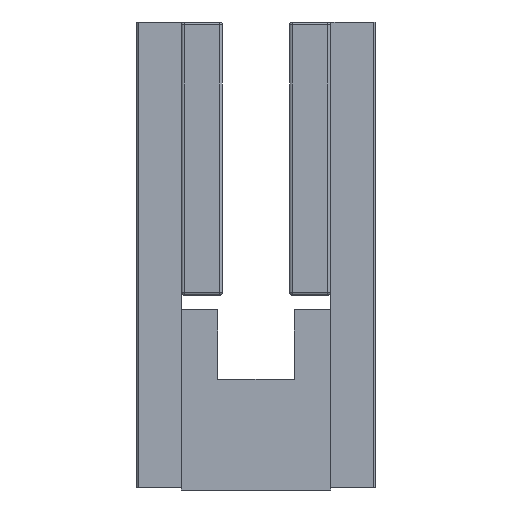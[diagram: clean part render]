
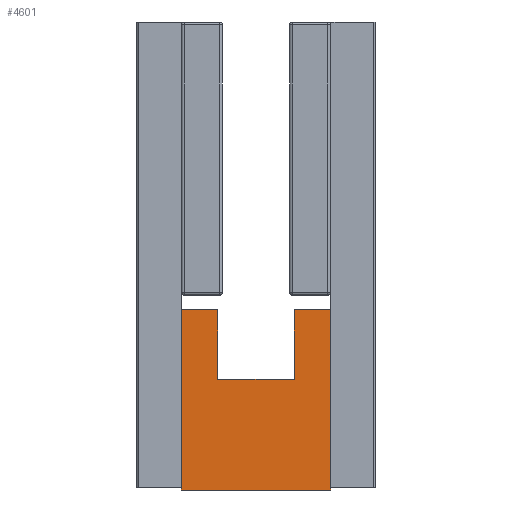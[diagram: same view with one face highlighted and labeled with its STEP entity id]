
A CAD part, left-side view. The second image highlights one B-rep face of the part: STEP entity #4601.
In plain terms, the highlighted planar face has unit normal (-1, 0, 0).
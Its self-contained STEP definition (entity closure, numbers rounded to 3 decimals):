
#120 = VERTEX_POINT ( 'NONE', #5727 ) ;
#140 = DIRECTION ( 'NONE',  ( 0., 1., 0. ) ) ;
#284 = VERTEX_POINT ( 'NONE', #606 ) ;
#311 = ORIENTED_EDGE ( 'NONE', *, *, #3710, .T. ) ;
#358 = ORIENTED_EDGE ( 'NONE', *, *, #2970, .T. ) ;
#548 = DIRECTION ( 'NONE',  ( 0., 1., 0. ) ) ;
#550 = EDGE_CURVE ( 'NONE', #120, #1038, #576, .T. ) ;
#576 = LINE ( 'NONE', #4588, #1235 ) ;
#602 = CARTESIAN_POINT ( 'NONE',  ( -107.45, -2.575, 3.4 ) ) ;
#606 = CARTESIAN_POINT ( 'NONE',  ( -107.45, 2.575, 8.1 ) ) ;
#763 = CARTESIAN_POINT ( 'NONE',  ( -107.45, 0., 0. ) ) ;
#937 = LINE ( 'NONE', #2533, #5169 ) ;
#1038 = VERTEX_POINT ( 'NONE', #1980 ) ;
#1074 = VECTOR ( 'NONE', #5003, 1000. ) ;
#1184 = ORIENTED_EDGE ( 'NONE', *, *, #2527, .T. ) ;
#1218 = DIRECTION ( 'NONE',  ( 0., 0., 1. ) ) ;
#1235 = VECTOR ( 'NONE', #3201, 1000. ) ;
#1244 = DIRECTION ( 'NONE',  ( 0., 0., -1. ) ) ;
#1268 = ORIENTED_EDGE ( 'NONE', *, *, #2606, .T. ) ;
#1291 = EDGE_CURVE ( 'NONE', #6173, #3216, #6103, .T. ) ;
#1480 = CARTESIAN_POINT ( 'NONE',  ( -107.45, -2.575, 8.1 ) ) ;
#1481 = ORIENTED_EDGE ( 'NONE', *, *, #2156, .T. ) ;
#1660 = CARTESIAN_POINT ( 'NONE',  ( -107.45, 5.075, 8.1 ) ) ;
#1705 = VERTEX_POINT ( 'NONE', #2140 ) ;
#1808 = VERTEX_POINT ( 'NONE', #5861 ) ;
#1980 = CARTESIAN_POINT ( 'NONE',  ( -107.45, -5.075, -4.1 ) ) ;
#2017 = AXIS2_PLACEMENT_3D ( 'NONE', #763, #2192, #1218 ) ;
#2140 = CARTESIAN_POINT ( 'NONE',  ( -107.45, -5.075, 8.1 ) ) ;
#2156 = EDGE_CURVE ( 'NONE', #1038, #1705, #3626, .T. ) ;
#2192 = DIRECTION ( 'NONE',  ( -1., 0., 0. ) ) ;
#2472 = LINE ( 'NONE', #1480, #3076 ) ;
#2476 = VECTOR ( 'NONE', #1244, 1000. ) ;
#2527 = EDGE_CURVE ( 'NONE', #284, #2829, #4442, .T. ) ;
#2533 = CARTESIAN_POINT ( 'NONE',  ( -107.45, 2.575, 8.1 ) ) ;
#2583 = ORIENTED_EDGE ( 'NONE', *, *, #550, .T. ) ;
#2606 = EDGE_CURVE ( 'NONE', #3216, #284, #937, .T. ) ;
#2829 = VERTEX_POINT ( 'NONE', #6138 ) ;
#2923 = VECTOR ( 'NONE', #3247, 1000. ) ;
#2970 = EDGE_CURVE ( 'NONE', #2829, #120, #6100, .T. ) ;
#3076 = VECTOR ( 'NONE', #548, 1000. ) ;
#3201 = DIRECTION ( 'NONE',  ( 0., -1., 0. ) ) ;
#3216 = VERTEX_POINT ( 'NONE', #3716 ) ;
#3247 = DIRECTION ( 'NONE',  ( 0., 0., -1. ) ) ;
#3292 = EDGE_CURVE ( 'NONE', #1808, #6173, #4215, .T. ) ;
#3626 = LINE ( 'NONE', #5299, #4524 ) ;
#3710 = EDGE_CURVE ( 'NONE', #1705, #1808, #2472, .T. ) ;
#3716 = CARTESIAN_POINT ( 'NONE',  ( -107.45, 2.575, 3.4 ) ) ;
#3803 = ORIENTED_EDGE ( 'NONE', *, *, #1291, .T. ) ;
#3938 = EDGE_LOOP ( 'NONE', ( #3803, #1268, #1184, #358, #2583, #1481, #311, #4276 ) ) ;
#4197 = CARTESIAN_POINT ( 'NONE',  ( -107.45, -2.575, 3.4 ) ) ;
#4215 = LINE ( 'NONE', #4197, #2923 ) ;
#4276 = ORIENTED_EDGE ( 'NONE', *, *, #3292, .T. ) ;
#4442 = LINE ( 'NONE', #1660, #1074 ) ;
#4477 = DIRECTION ( 'NONE',  ( 0., 0., 1. ) ) ;
#4524 = VECTOR ( 'NONE', #5233, 1000. ) ;
#4588 = CARTESIAN_POINT ( 'NONE',  ( -107.45, -5.075, -4.1 ) ) ;
#4601 = ADVANCED_FACE ( 'NONE', ( #5806 ), #4977, .T. ) ;
#4807 = VECTOR ( 'NONE', #140, 1000. ) ;
#4977 = PLANE ( 'NONE',  #2017 ) ;
#5003 = DIRECTION ( 'NONE',  ( 0., 1., 0. ) ) ;
#5169 = VECTOR ( 'NONE', #4477, 1000. ) ;
#5233 = DIRECTION ( 'NONE',  ( 0., 0., 1. ) ) ;
#5299 = CARTESIAN_POINT ( 'NONE',  ( -107.45, -5.075, 8.1 ) ) ;
#5538 = CARTESIAN_POINT ( 'NONE',  ( -107.45, 5.075, -4.1 ) ) ;
#5727 = CARTESIAN_POINT ( 'NONE',  ( -107.45, 5.075, -4.1 ) ) ;
#5806 = FACE_OUTER_BOUND ( 'NONE', #3938, .T. ) ;
#5861 = CARTESIAN_POINT ( 'NONE',  ( -107.45, -2.575, 8.1 ) ) ;
#5874 = CARTESIAN_POINT ( 'NONE',  ( -107.45, 2.575, 3.4 ) ) ;
#6100 = LINE ( 'NONE', #5538, #2476 ) ;
#6103 = LINE ( 'NONE', #5874, #4807 ) ;
#6138 = CARTESIAN_POINT ( 'NONE',  ( -107.45, 5.075, 8.1 ) ) ;
#6173 = VERTEX_POINT ( 'NONE', #602 ) ;
